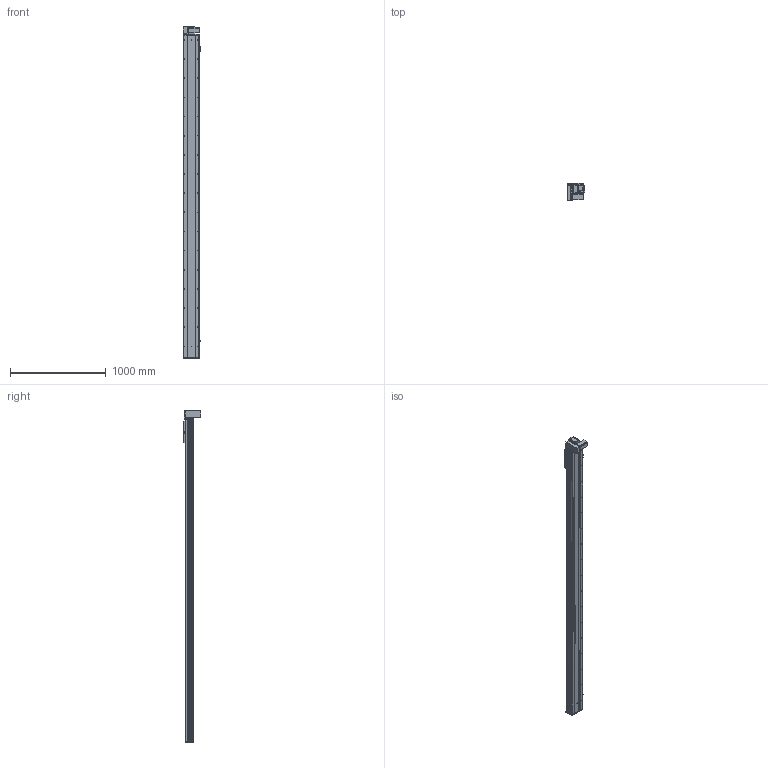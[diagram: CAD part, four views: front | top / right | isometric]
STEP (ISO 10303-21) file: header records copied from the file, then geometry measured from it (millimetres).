
FILE_DESCRIPTION (( 'STEP AP203' ), '1' );
FILE_NAME ('Y170CB-D105-S3050-BM-P400W.STEP', '2020-02-20T07:55:26', ( '微软用户' ), ( '微软中国' ), 'SwSTEP 2.0', 'SolidWorks 2017', '' );
FILE_SCHEMA (( 'CONFIG_CONTROL_DESIGN' ));
Length unit declared in the file: millimetre
Products named in the file (18): 70CB-詩湍--; --70CB --喘謫眊楊擘啣-; Y100-135俋离換覜ん--; 70CB-耜裔啣-; Y170CB-陔俋离換覜結え---; Y1埴倛裔; 17B-耜蚾蟀諉啣----; 70C--詩湍揤踡え-; B-源倛裔啣; 00B-俋欶BM--163; 70CB--耜裔; 0B-萇儂楊擘啣; 70B喘謫眊----; 70C-雄赽釱-奻-; san松下电机400不带刹车----; Y170CB-D105-S3050-BM-P400W; 0C--雄赽釱俋欶-170; 70CB-掛极-
Assembly tree (21 placements, depth 2):
  Y170CB-D105-S3050-BM-P400W
    B-源倛裔啣
    0B-萇儂楊擘啣
    san松下电机400不带刹车----
    70CB-掛极-
    --70CB --喘謫眊楊擘啣-
    70CB-耜裔啣-  x2
    70C--詩湍揤踡え-  x2
    70CB--耜裔
    70C-雄赽釱-奻-
    0C--雄赽釱俋欶-170
    70CB-詩湍--
    Y100-135俋离換覜ん--  x3
    Y170CB-陔俋离換覜結え---
    Y1埴倛裔
    17B-耜蚾蟀諉啣----
    00B-俋欶BM--163
    70B喘謫眊----
Bounding box: 183.5 x 184 x 3466 mm (x, y, z)
Volume: 14611437.8 mm3; surface area: 5282578.7 mm2
Topology: 21 solids, 21 shells, 1087 faces, 2933 edges, 1946 vertices
Faces by surface type: cylinder 601, plane 462, cone 24
Entity records: 34956 total; most frequent: CARTESIAN_POINT 6456, DIRECTION 5690, ORIENTED_EDGE 5348, EDGE_CURVE 2674, AXIS2_PLACEMENT_3D 2108, VERTEX_POINT 1776, LINE 1474, VECTOR 1474
